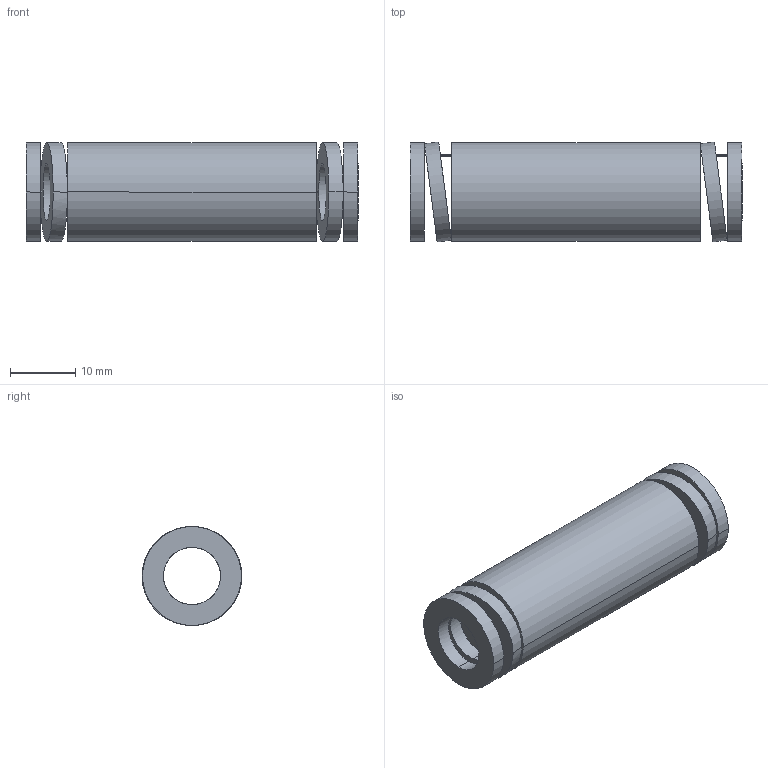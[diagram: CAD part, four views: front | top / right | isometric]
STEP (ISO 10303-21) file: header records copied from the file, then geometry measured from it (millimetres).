
FILE_DESCRIPTION(('CATIA V5 STEP Exchange'),'2;1');
FILE_NAME('C:\Users\Utente\Desktop\IO LAVORO\3D X SITO CF\X SITO\3D files 392B\392-B16-051.stp','2021-08-12T14:06:04+00:00',('none'),('none'),'CATIA Version 5 Release 20 GA (IN-10)','CATIA V5 STEP AP203','none');
FILE_SCHEMA(('CONFIG_CONTROL_DESIGN'));
Length unit declared in the file: millimetre
Products named in the file (1): 392-B16-051
Bounding box: 51 x 15.36 x 15.2 mm (x, y, z)
Volume: 5659.1 mm3; surface area: 4745.9 mm2
Topology: 1 solids, 1 shells, 38 faces, 92 edges, 64 vertices
Faces by surface type: cylinder 28, plane 10
Entity records: 1584 total; most frequent: CARTESIAN_POINT 695, ORIENTED_EDGE 184, DIRECTION 129, EDGE_CURVE 92, AXIS2_PLACEMENT_3D 64, VERTEX_POINT 64, EDGE_LOOP 56, B_SPLINE_CURVE_WITH_KNOTS 39
